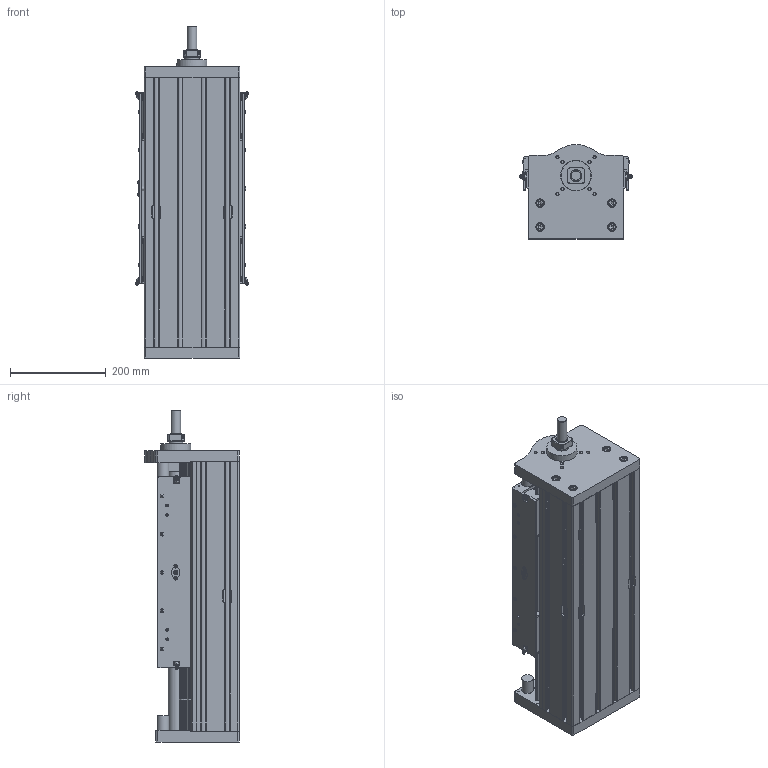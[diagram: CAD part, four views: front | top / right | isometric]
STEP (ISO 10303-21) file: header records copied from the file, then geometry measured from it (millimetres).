
FILE_DESCRIPTION(/* description */ ('Asse VU-K200LE-30H-32-N'),/* implementation_level */ '2;1');
FILE_NAME(/* name */ 'VU-K200LE-30H-32-N-CLIENTE.stp',/* time_stamp */ '2025-02-06T09:32:45+01:00',/* author */ ('davide.cavedon'),/* organization */ (''),/* preprocessor_version */ 'ST-DEVELOPER v20',/* originating_system */ 'Autodesk Inventor 2024',/* authorisation */ '');
FILE_SCHEMA (('CONFIG_CONTROL_DESIGN'));
Products named in the file (5): VU-K200LE-30H-32-N-CLIENTE; C_VU-K200LE-30H-32-N-CLIENTE-001; C_VU-K200SE-30H-32-N-CLIENTE-003; C_VU-K200SE-30H-32-N-CLIENTE-004; C_VU-K200LE-30H-32-N-CLIENTE-002
Assembly tree (4 placements, depth 2):
  VU-K200LE-30H-32-N-CLIENTE
    C_VU-K200LE-30H-32-N-CLIENTE-001
    C_VU-K200SE-30H-32-N-CLIENTE-003
    C_VU-K200SE-30H-32-N-CLIENTE-004
    C_VU-K200LE-30H-32-N-CLIENTE-002
Bounding box: 235.69 x 197.5 x 695 mm (x, y, z)
Volume: 16541593.9 mm3; surface area: 1416777.2 mm2
Topology: 10 solids, 84 shells, 3777 faces, 9956 edges, 6462 vertices
Faces by surface type: plane 2181, cylinder 996, cone 445, torus 125, bspline 24, sphere 6
Full cylindrical faces by diameter (mm): 0.5 x4, 1 x8, 2 x5, 2.459 x2, 3 x10, 3.242 x32, 3.5 x2, 4 x10, 4.134 x8, 4.135 x2, 4.15 x2, 4.2 x2, 4.5 x11, 4.917 x2, 5 x14, 5.3 x2, 5.5 x8, 5.7 x2, 6 x16, 6.2 x2, 6.647 x52, 7.3 x8, 7.6 x10, 7.847 x4, 8 x30, 9 x22, 9.3 x2, 13 x20, 14 x20, 16 x8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
Entity records: 121499 total; most frequent: CARTESIAN_POINT 24765, ORIENTED_EDGE 19704, DIRECTION 19257, EDGE_CURVE 9852, AXIS2_PLACEMENT_3D 6622, VERTEX_POINT 6462, LINE 6013, VECTOR 6013
